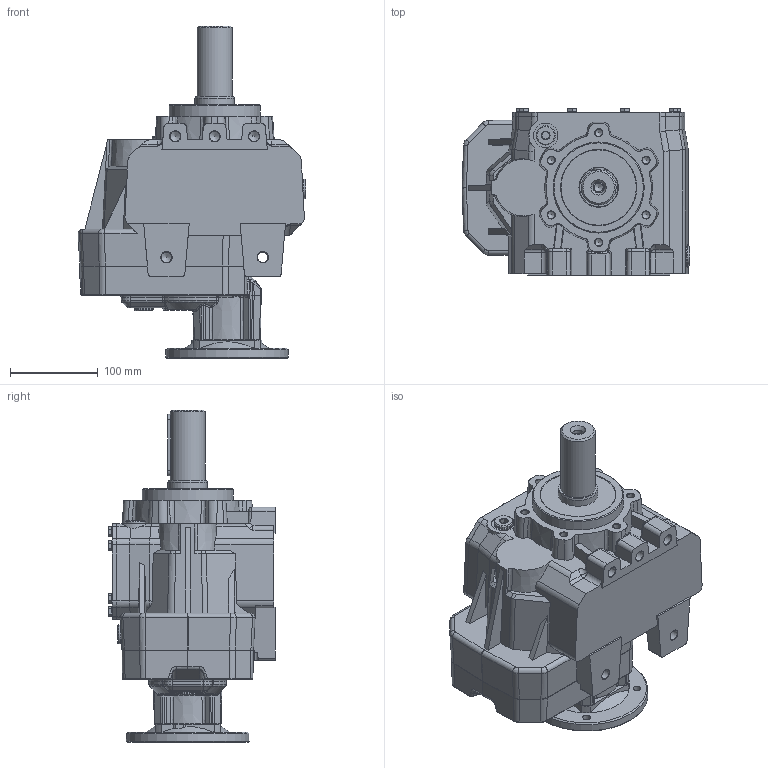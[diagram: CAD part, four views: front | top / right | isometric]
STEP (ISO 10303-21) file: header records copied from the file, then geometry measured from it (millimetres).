
FILE_DESCRIPTION( ( 'Unknown' ), '1' );
FILE_NAME( 'E:/services/configuratordownloads/customers/HYDROMEC/COASSIALI/download/E1897FA2C75B2DF13C90897541E7DE/STEP/E1897FA2C75B2DF13C90897541E7DE.3d.stp', 'Unknown', ( 'Unknown' ), ( 'Unknown' ), 'PSStep 10.1', 'Unknown', ' ' );
FILE_SCHEMA( ( 'AUTOMOTIVE_DESIGN { 1 0 10303 214 1 1 1 1 }' ) );
Length unit declared in the file: millimetre
Products named in the file (1): C818800
Bounding box: 260.12 x 190.2 x 379 mm (x, y, z)
Volume: 7194926.7 mm3; surface area: 346547.3 mm2
Topology: 1 solids, 29 shells, 1215 faces, 2877 edges, 1789 vertices
Faces by surface type: plane 550, cylinder 311, cone 152, bspline 137, torus 52, sphere 13
Full cylindrical faces by diameter (mm): 4.917 x2, 6 x8, 6.647 x4, 7 x8, 8 x8, 8.376 x6, 8.5 x4, 8.9 x8, 9 x4, 9.5 x8, 10.106 x2, 11.835 x5, 12.5 x1, 13 x8, 14.3 x4, 14.95 x4, 17 x4, 20 x1, 22 x8, 28 x4, 32.4 x1, 35 x1, 35.5 x1, 40 x1, 44.999 x1, 47 x2, 95 x1, 104 x1
Entity records: 50741 total; most frequent: CARTESIAN_POINT 15147, DIRECTION 5288, ORIENTED_EDGE 5072, EDGE_CURVE 2536, AXIS2_PLACEMENT_3D 2068, VERTEX_POINT 1684, EDGE_LOOP 1556, FACE_OUTER_BOUND 1360
